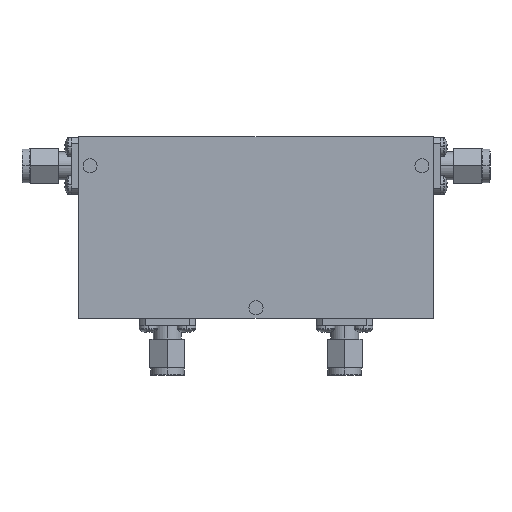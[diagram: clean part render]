
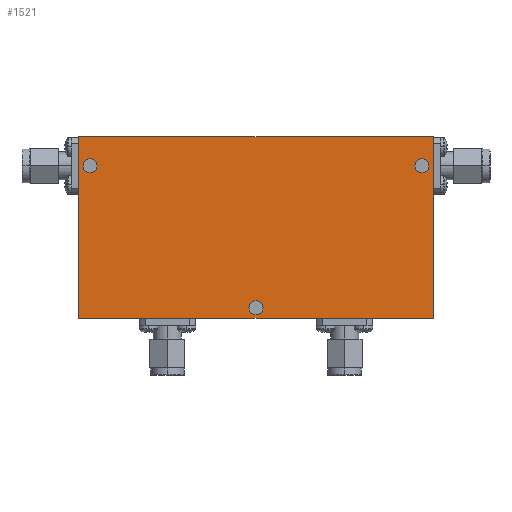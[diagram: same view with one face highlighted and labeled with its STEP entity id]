
A CAD part, top view. The second image highlights one B-rep face of the part: STEP entity #1521.
In plain terms, the highlighted planar face has unit normal (0, 0, 1).
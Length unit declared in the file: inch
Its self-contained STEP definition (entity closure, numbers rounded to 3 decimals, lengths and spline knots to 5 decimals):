
#103 = VERTEX_POINT ( 'NONE', #611 ) ;
#131 = ORIENTED_EDGE ( 'NONE', *, *, #510, .F. ) ;
#132 = CARTESIAN_POINT ( 'NONE',  ( 1.58, 0.81, 0.365 ) ) ;
#181 = CARTESIAN_POINT ( 'NONE',  ( 0., -0.715, 0.365 ) ) ;
#190 = DIRECTION ( 'NONE',  ( 1., 0., 0. ) ) ;
#216 = VERTEX_POINT ( 'NONE', #3213 ) ;
#269 = CIRCLE ( 'NONE', #459, 0.0625 ) ;
#275 = DIRECTION ( 'NONE',  ( 1., 0., 0. ) ) ;
#325 = VECTOR ( 'NONE', #3100, 39.37008 ) ;
#361 = CARTESIAN_POINT ( 'NONE',  ( 1.48, 0.55, 0.365 ) ) ;
#371 = EDGE_CURVE ( 'NONE', #807, #103, #2923, .T. ) ;
#408 = EDGE_CURVE ( 'NONE', #2386, #216, #2669, .T. ) ;
#459 = AXIS2_PLACEMENT_3D ( 'NONE', #2608, #590, #2337 ) ;
#510 = EDGE_CURVE ( 'NONE', #1109, #2699, #2502, .T. ) ;
#516 = EDGE_LOOP ( 'NONE', ( #882, #1814 ) ) ;
#557 = FACE_BOUND ( 'NONE', #516, .T. ) ;
#590 = DIRECTION ( 'NONE',  ( 0., 0., 1. ) ) ;
#611 = CARTESIAN_POINT ( 'NONE',  ( -1.5425, 0.55, 0.365 ) ) ;
#635 = FACE_BOUND ( 'NONE', #2294, .T. ) ;
#641 = CARTESIAN_POINT ( 'NONE',  ( 0., 0., 0.365 ) ) ;
#713 = VERTEX_POINT ( 'NONE', #1846 ) ;
#727 = EDGE_CURVE ( 'NONE', #1650, #713, #912, .T. ) ;
#737 = CARTESIAN_POINT ( 'NONE',  ( 1.5425, 0.55, 0.365 ) ) ;
#754 = LINE ( 'NONE', #2388, #1439 ) ;
#807 = VERTEX_POINT ( 'NONE', #1422 ) ;
#833 = LINE ( 'NONE', #1610, #2418 ) ;
#882 = ORIENTED_EDGE ( 'NONE', *, *, #371, .F. ) ;
#912 = CIRCLE ( 'NONE', #2322, 0.0625 ) ;
#944 = AXIS2_PLACEMENT_3D ( 'NONE', #2904, #2616, #275 ) ;
#945 = CARTESIAN_POINT ( 'NONE',  ( -1.58, 0.81, 0.365 ) ) ;
#1063 = ORIENTED_EDGE ( 'NONE', *, *, #727, .F. ) ;
#1092 = CARTESIAN_POINT ( 'NONE',  ( 1.58, -0.81, 0.365 ) ) ;
#1094 = CIRCLE ( 'NONE', #1230, 0.0625 ) ;
#1109 = VERTEX_POINT ( 'NONE', #2299 ) ;
#1119 = DIRECTION ( 'NONE',  ( 0., 1., 0. ) ) ;
#1148 = ORIENTED_EDGE ( 'NONE', *, *, #2240, .F. ) ;
#1153 = DIRECTION ( 'NONE',  ( 1., 0., 0. ) ) ;
#1193 = ORIENTED_EDGE ( 'NONE', *, *, #2019, .T. ) ;
#1215 = DIRECTION ( 'NONE',  ( 1., 0., 0. ) ) ;
#1230 = AXIS2_PLACEMENT_3D ( 'NONE', #3352, #3340, #1215 ) ;
#1240 = FACE_BOUND ( 'NONE', #1432, .T. ) ;
#1276 = EDGE_LOOP ( 'NONE', ( #1795, #1193, #2756, #2183 ) ) ;
#1422 = CARTESIAN_POINT ( 'NONE',  ( -1.4175, 0.55, 0.365 ) ) ;
#1432 = EDGE_LOOP ( 'NONE', ( #1063, #1148 ) ) ;
#1439 = VECTOR ( 'NONE', #1119, 39.37008 ) ;
#1456 = CIRCLE ( 'NONE', #1854, 0.0625 ) ;
#1466 = ORIENTED_EDGE ( 'NONE', *, *, #2404, .F. ) ;
#1495 = DIRECTION ( 'NONE',  ( 1., 0., 0. ) ) ;
#1514 = CARTESIAN_POINT ( 'NONE',  ( -1.58, 0.81, 0.365 ) ) ;
#1521 = ADVANCED_FACE ( 'NONE', ( #1240, #635, #557, #3329 ), #1707, .T. ) ;
#1562 = VERTEX_POINT ( 'NONE', #132 ) ;
#1578 = CARTESIAN_POINT ( 'NONE',  ( 0.0625, -0.715, 0.365 ) ) ;
#1610 = CARTESIAN_POINT ( 'NONE',  ( -1.58, 0.81, 0.365 ) ) ;
#1618 = DIRECTION ( 'NONE',  ( 0., 0., 1. ) ) ;
#1650 = VERTEX_POINT ( 'NONE', #737 ) ;
#1707 = PLANE ( 'NONE',  #3116 ) ;
#1781 = DIRECTION ( 'NONE',  ( 0., 0., 1. ) ) ;
#1795 = ORIENTED_EDGE ( 'NONE', *, *, #2066, .T. ) ;
#1814 = ORIENTED_EDGE ( 'NONE', *, *, #3305, .F. ) ;
#1846 = CARTESIAN_POINT ( 'NONE',  ( 1.4175, 0.55, 0.365 ) ) ;
#1854 = AXIS2_PLACEMENT_3D ( 'NONE', #181, #2769, #190 ) ;
#1963 = DIRECTION ( 'NONE',  ( 1., 0., 0. ) ) ;
#2019 = EDGE_CURVE ( 'NONE', #1562, #2386, #833, .T. ) ;
#2066 = EDGE_CURVE ( 'NONE', #2866, #1562, #754, .T. ) ;
#2068 = EDGE_CURVE ( 'NONE', #216, #2866, #2829, .T. ) ;
#2129 = VECTOR ( 'NONE', #1963, 39.37008 ) ;
#2159 = DIRECTION ( 'NONE',  ( 1., 0., 0. ) ) ;
#2183 = ORIENTED_EDGE ( 'NONE', *, *, #2068, .T. ) ;
#2240 = EDGE_CURVE ( 'NONE', #713, #1650, #1094, .T. ) ;
#2294 = EDGE_LOOP ( 'NONE', ( #1466, #131 ) ) ;
#2299 = CARTESIAN_POINT ( 'NONE',  ( -0.0625, -0.715, 0.365 ) ) ;
#2322 = AXIS2_PLACEMENT_3D ( 'NONE', #361, #1618, #2159 ) ;
#2337 = DIRECTION ( 'NONE',  ( 1., 0., 0. ) ) ;
#2386 = VERTEX_POINT ( 'NONE', #945 ) ;
#2388 = CARTESIAN_POINT ( 'NONE',  ( 1.58, 0.81, 0.365 ) ) ;
#2404 = EDGE_CURVE ( 'NONE', #2699, #1109, #1456, .T. ) ;
#2418 = VECTOR ( 'NONE', #2658, 39.37008 ) ;
#2502 = CIRCLE ( 'NONE', #944, 0.0625 ) ;
#2508 = CARTESIAN_POINT ( 'NONE',  ( -1.58, -0.81, 0.365 ) ) ;
#2543 = CARTESIAN_POINT ( 'NONE',  ( -1.48, 0.55, 0.365 ) ) ;
#2608 = CARTESIAN_POINT ( 'NONE',  ( -1.48, 0.55, 0.365 ) ) ;
#2616 = DIRECTION ( 'NONE',  ( 0., 0., 1. ) ) ;
#2658 = DIRECTION ( 'NONE',  ( -1., 0., 0. ) ) ;
#2669 = LINE ( 'NONE', #1514, #325 ) ;
#2699 = VERTEX_POINT ( 'NONE', #1578 ) ;
#2756 = ORIENTED_EDGE ( 'NONE', *, *, #408, .T. ) ;
#2769 = DIRECTION ( 'NONE',  ( 0., 0., 1. ) ) ;
#2829 = LINE ( 'NONE', #2508, #2129 ) ;
#2866 = VERTEX_POINT ( 'NONE', #1092 ) ;
#2904 = CARTESIAN_POINT ( 'NONE',  ( 0., -0.715, 0.365 ) ) ;
#2923 = CIRCLE ( 'NONE', #2981, 0.0625 ) ;
#2981 = AXIS2_PLACEMENT_3D ( 'NONE', #2543, #1781, #1495 ) ;
#3015 = DIRECTION ( 'NONE',  ( 0., 0., 1. ) ) ;
#3100 = DIRECTION ( 'NONE',  ( 0., -1., 0. ) ) ;
#3116 = AXIS2_PLACEMENT_3D ( 'NONE', #641, #3015, #1153 ) ;
#3213 = CARTESIAN_POINT ( 'NONE',  ( -1.58, -0.81, 0.365 ) ) ;
#3305 = EDGE_CURVE ( 'NONE', #103, #807, #269, .T. ) ;
#3329 = FACE_OUTER_BOUND ( 'NONE', #1276, .T. ) ;
#3340 = DIRECTION ( 'NONE',  ( 0., 0., 1. ) ) ;
#3352 = CARTESIAN_POINT ( 'NONE',  ( 1.48, 0.55, 0.365 ) ) ;
